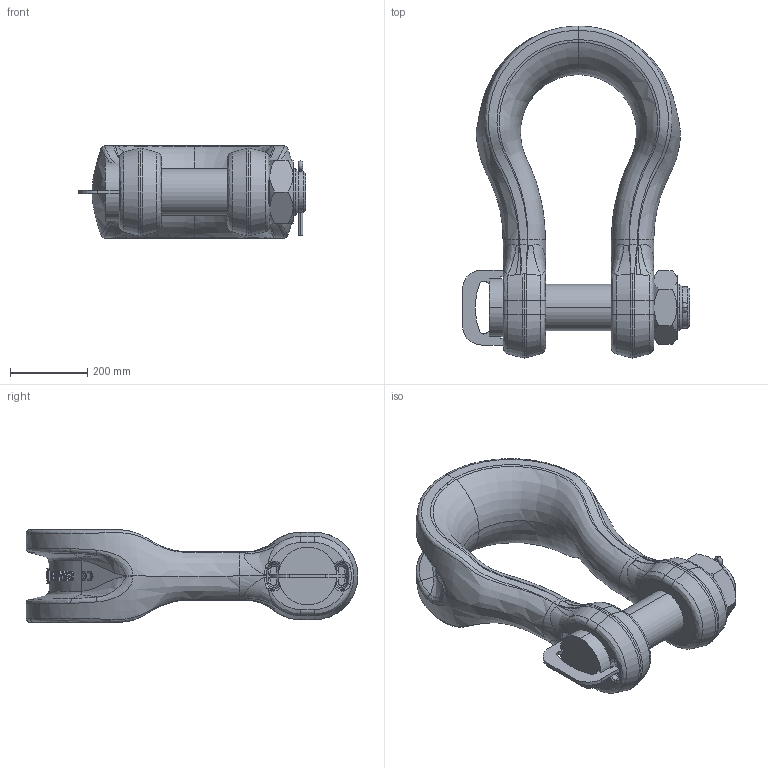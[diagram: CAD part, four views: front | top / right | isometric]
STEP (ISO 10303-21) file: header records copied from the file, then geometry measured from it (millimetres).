
FILE_DESCRIPTION(('STEP AP214'),'1');
FILE_NAME('slgpf0250.stp','2017-07-03T06:30:00',('TraceParts'),('TraceParts S.A.'),'Spatial InterOp 3D',' ',' ');
FILE_SCHEMA(('automotive_design'));
Length unit declared in the file: millimetre
Products named in the file (5): slgpf0250_1; slgpf0250_2; slgpf0250_3; slgpf0250_4; slgpf0250_5
Bounding box: 587.5 x 858.5 x 240 mm (x, y, z)
Volume: 34336178.5 mm3; surface area: 1426168.3 mm2
Topology: 5 solids, 5 shells, 620 faces, 1554 edges, 970 vertices
Faces by surface type: bspline 299, plane 176, cylinder 77, cone 62, torus 6
Entity records: 134877 total; most frequent: CARTESIAN_POINT 117295, ORIENTED_EDGE 3108, DIRECTION 1790, EDGE_CURVE 1554, VERTEX_POINT 970, B_SPLINE_CURVE_WITH_KNOTS 756, AXIS2_PLACEMENT_3D 699, EDGE_LOOP 654
